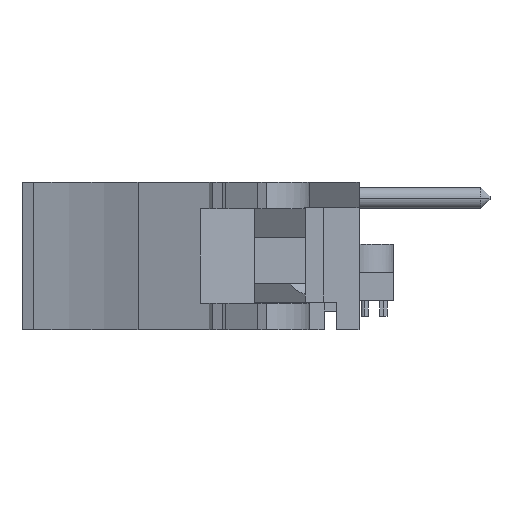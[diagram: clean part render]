
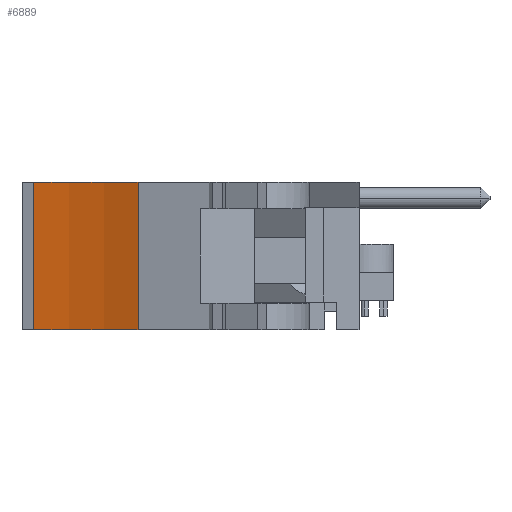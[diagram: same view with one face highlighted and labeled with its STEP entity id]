
A CAD part, front view. The second image highlights one B-rep face of the part: STEP entity #6889.
In plain terms, the highlighted cylindrical face has radius 51.46 mm (diameter 102.919 mm), a partial arc.
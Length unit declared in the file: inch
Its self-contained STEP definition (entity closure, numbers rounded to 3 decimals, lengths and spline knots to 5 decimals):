
#1106=CARTESIAN_POINT('',(-1.97633,-5.96253,0.695));
#1107=DIRECTION('',(0.,0.,1.));
#1108=DIRECTION('',(0.435,0.9,0.));
#1109=AXIS2_PLACEMENT_3D('',#1106,#1107,#1108);
#1451=CARTESIAN_POINT('',(-1.97633,-5.96253,-0.093));
#1452=DIRECTION('',(0.,0.,1.));
#1453=DIRECTION('',(0.435,0.9,0.));
#1454=AXIS2_PLACEMENT_3D('',#1451,#1452,#1453);
#1653=DIRECTION('',(0.,0.,1.));
#1654=VECTOR('',#1653,0.788);
#1655=CARTESIAN_POINT('',(-1.653,-3.96253,-0.093));
#1656=LINE('',#1655,#1654);
#1661=DIRECTION('',(0.,0.,1.));
#1662=VECTOR('',#1661,0.788);
#1663=CARTESIAN_POINT('',(-1.09503,-4.13829,-0.093));
#1664=LINE('',#1663,#1662);
#4060=CARTESIAN_POINT('',(-1.09503,-4.13829,-0.093));
#4061=CARTESIAN_POINT('',(-1.653,-3.96253,-0.093));
#4062=VERTEX_POINT('',#4060);
#4063=VERTEX_POINT('',#4061);
#4064=CARTESIAN_POINT('',(-1.09503,-4.13829,0.695));
#4065=CARTESIAN_POINT('',(-1.653,-3.96253,0.695));
#4066=VERTEX_POINT('',#4064);
#4067=VERTEX_POINT('',#4065);
#6877=CARTESIAN_POINT('',(-1.97633,-5.96253,0.695));
#6878=DIRECTION('',(0.,0.,1.));
#6879=DIRECTION('',(0.,1.,0.));
#6880=AXIS2_PLACEMENT_3D('',#6877,#6878,#6879);
#6881=CYLINDRICAL_SURFACE('',#6880,2.02597);
#6882=ORIENTED_EDGE('',*,*,#6605,.T.);
#6883=ORIENTED_EDGE('',*,*,#6869,.T.);
#6884=ORIENTED_EDGE('',*,*,#6154,.F.);
#6886=ORIENTED_EDGE('',*,*,#6885,.F.);
#6887=EDGE_LOOP('',(#6882,#6883,#6884,#6886));
#6888=FACE_OUTER_BOUND('',#6887,.F.);
#6889=ADVANCED_FACE('',(#6888),#6881,.F.);
#1110=CIRCLE('',#1109,2.02597);
#1455=CIRCLE('',#1454,2.02597);
#6154=EDGE_CURVE('',#4066,#4067,#1110,.T.);
#6605=EDGE_CURVE('',#4062,#4063,#1455,.T.);
#6869=EDGE_CURVE('',#4063,#4067,#1656,.T.);
#6885=EDGE_CURVE('',#4062,#4066,#1664,.T.);
